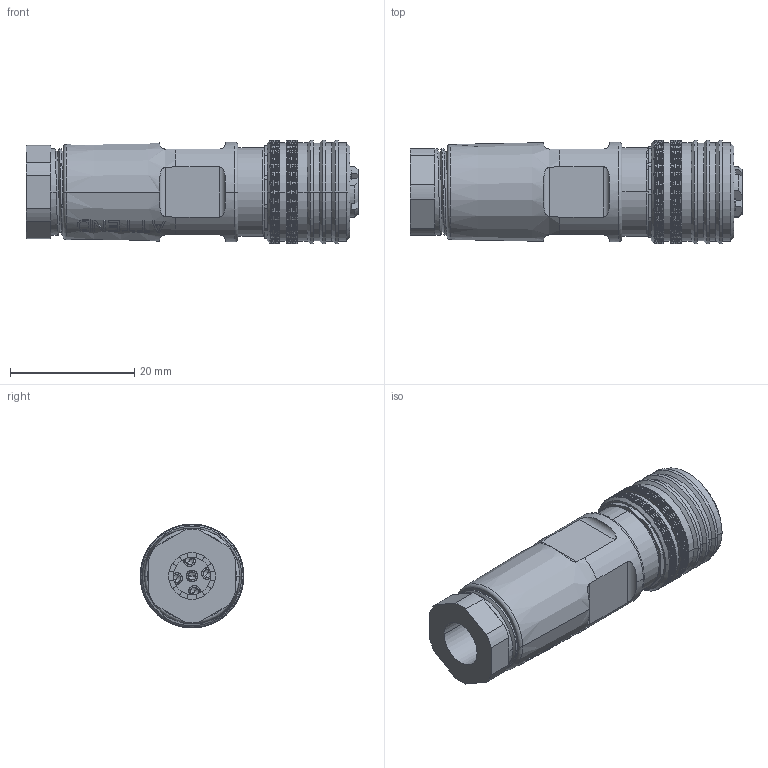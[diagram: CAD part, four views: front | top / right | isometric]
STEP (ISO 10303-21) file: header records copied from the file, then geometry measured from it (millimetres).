
FILE_DESCRIPTION((''),'2;1');
FILE_NAME('216D-05FF2_C_1_ASM','2026-04-27T',('fros.liao'),(''),'CREO PARAMETRIC BY PTC INC, 2018360','CREO PARAMETRIC BY PTC INC, 2018360','');
FILE_SCHEMA(('CONFIG_CONTROL_DESIGN'));
Products named in the file (16): SHIELD_NUT_1; PLASTIC_STRAPS_1; RUBBER_STRAPS_1; BACK_PLUG_1; BODY_1; ORING_PUSHPULL_1; THREAD_SLEEVE_ASM_2_ASM; SHELL_FEMALE_1_1_1_1_1; HSG_FEMALE_1_1_1_1_1; PIN_FEMALE_1_1_1_1_1; LOCK_FEMALE_1_1_1_1_1; ORING_FEMALE_1_1_1_1_1; OUTSHELL_FEMALE_1_1_1_1_1; 216D-05FO2_C_1_ASM_1_ASM_1_ASM; 216D-05FO2_C_1_ASM_1_ASM; 216D-05FF2_C_1_ASM
Assembly tree (19 placements, depth 4):
  216D-05FF2_C_1_ASM
    THREAD_SLEEVE_ASM_2_ASM
      SHIELD_NUT_1
      PLASTIC_STRAPS_1
      RUBBER_STRAPS_1
      BACK_PLUG_1
      BODY_1
      ORING_PUSHPULL_1
    216D-05FO2_C_1_ASM_1_ASM
      216D-05FO2_C_1_ASM_1_ASM_1_ASM
        SHELL_FEMALE_1_1_1_1_1
        HSG_FEMALE_1_1_1_1_1
        PIN_FEMALE_1_1_1_1_1  x5
        LOCK_FEMALE_1_1_1_1_1
        ORING_FEMALE_1_1_1_1_1
        OUTSHELL_FEMALE_1_1_1_1_1
Bounding box: 53.5 x 16.7 x 16.7 mm (x, y, z)
Volume: 7243 mm3; surface area: 12113.5 mm2
Topology: 16 solids, 16 shells, 2853 faces, 6837 edges, 4047 vertices
Faces by surface type: bspline 1554, cylinder 744, plane 395, cone 142, torus 18
Entity records: 124499 total; most frequent: CARTESIAN_POINT 73155, ORIENTED_EDGE 12930, EDGE_CURVE 6465, DIRECTION 6340, VERTEX_POINT 3815, B_SPLINE_CURVE_WITH_KNOTS 3601, EDGE_LOOP 2780, FACE_OUTER_BOUND 2713
